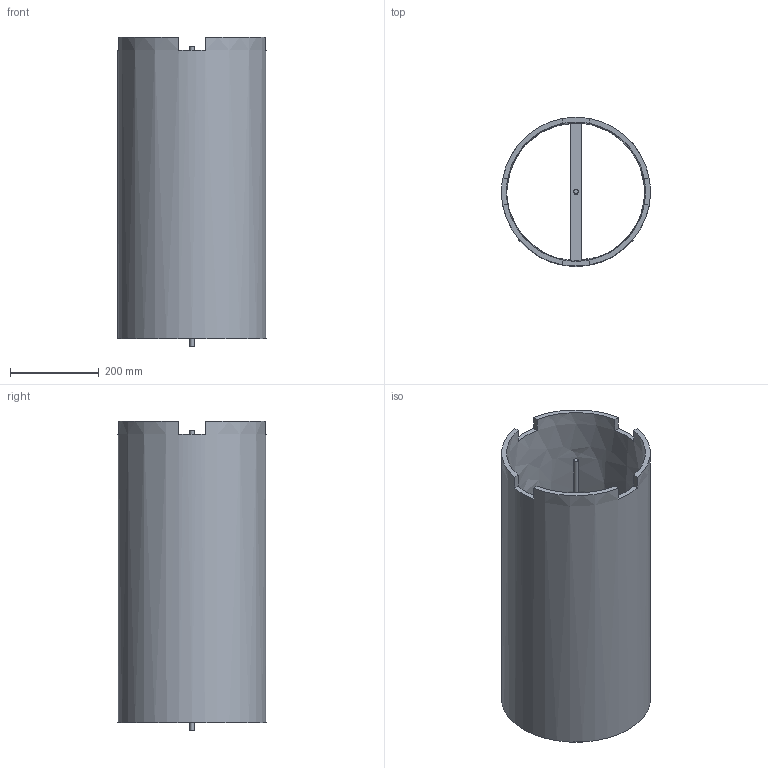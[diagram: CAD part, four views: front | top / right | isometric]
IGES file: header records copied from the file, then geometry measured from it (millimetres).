
Start section: Data from Parasolid IGES Translator 20.0.26, Copyright(c) 2006 Siemens P LM Software. All Rights Reserved.
Global section: file name: 45824.igs; native system: By Siemens PLM Incorporated; preprocessor: XPlus GENERIC/IGES 20.0.26; author: Noname; organization: Noname; date: 20210125.173801; units: millimetre
Bounding box: 335 x 335 x 697 mm (x, y, z)
Surface area: 1432707.3 mm2 (no closed solid volume)
Topology: 0 solids, 0 shells, 35 faces, 192 edges, 187 vertices
Faces by surface type: extrusion 31, revolution 4
